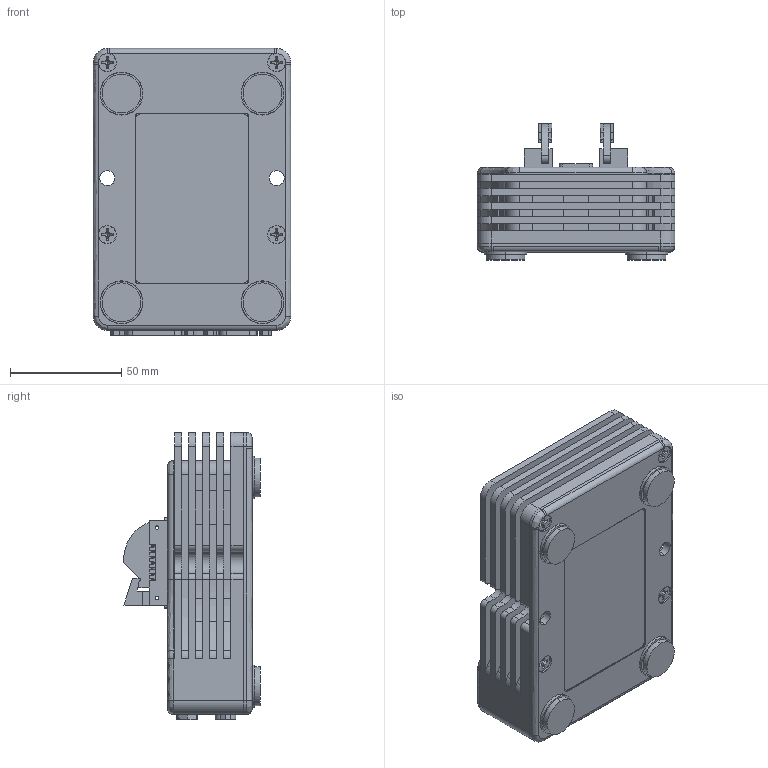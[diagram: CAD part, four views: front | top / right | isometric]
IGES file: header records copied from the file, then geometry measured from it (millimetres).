
Start section: SolidWorks IGES file using analytic representation for surfaces
Global section: file name: C:\Dropbox\Mechanical Engr\Development Projects (P)\203, 205 LaserMount\Customer Model Development\Step 4 - 205 TLA.IGS; native system: SolidWorks 2014; preprocessor: SolidWorks 2014; author: mhanson; date: 150227.152012; units: inch
Bounding box: 88.9 x 61.46 x 129.29 mm (x, y, z)
Volume: 375557.5 mm3; surface area: 102253.9 mm2
Topology: 2 solids, 2 shells, 4093 faces, 11813 edges, 7840 vertices
Faces by surface type: plane 3044, revolution 721, bspline 328
